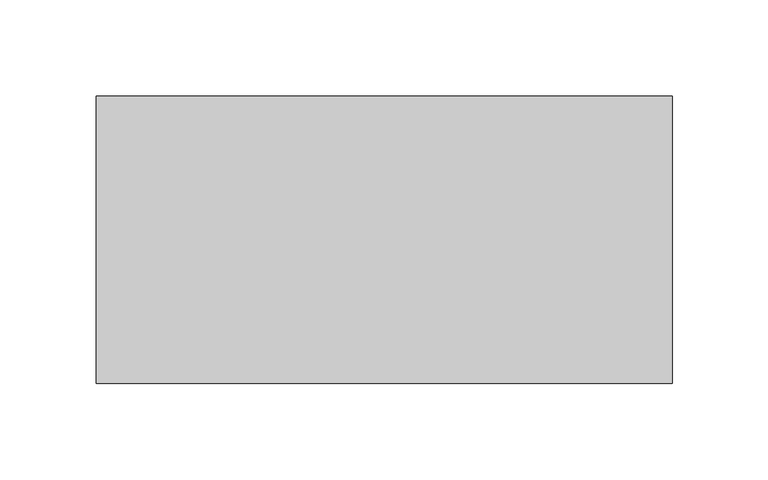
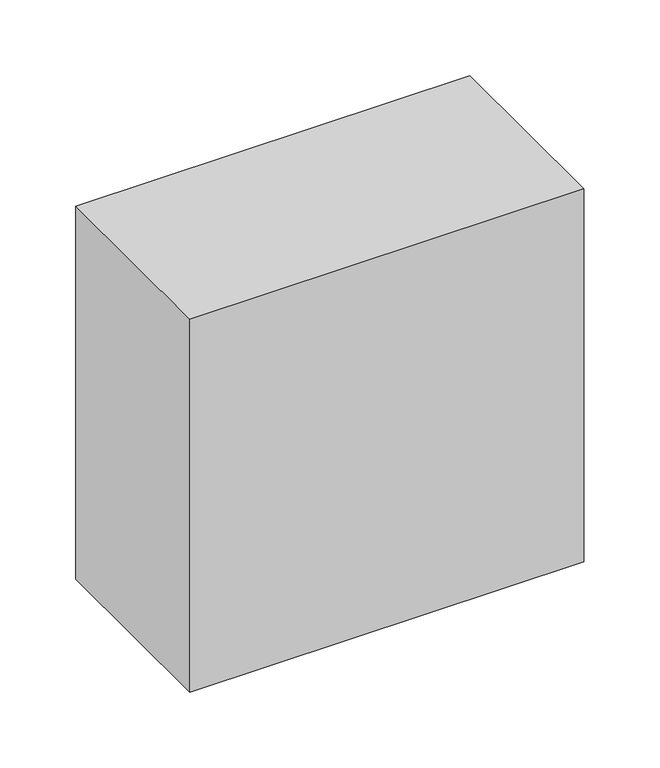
"""IFC4 building model written with IfcOpenShell, lengths in millimetres: proxy geometry, ▲EE_УЭР_компенсатор : 0300_мм."""

from ifc_helpers import new_model, si_unit, origin, origin_with_axes, place, context, project, spatial, polyline, outline, extrude, source, transform, mapped, element, save


def electrical_equipment_e233f642(model_context):
    return source(origin(), model_context, "Body", "SweptSolid", [
        extrude(outline(polyline([(300.0, -150.0), (0.0, -150.0), (0.0, 0.0), (300.0, 0.0), (300.0, -150.0)])), origin_with_axes(), (0.0, 0.0, 1.0), 300.0),
    ])


if __name__ == "__main__":
    model = new_model("IFC4")
    model_context = context("Model", 3, world=origin())
    ifc_project = project(units=[si_unit("LENGTHUNIT", "METRE", prefix="MILLI")], contexts=[model_context])
    site = spatial("IfcSite", under=ifc_project)
    building = spatial("IfcBuilding", under=site)
    placement = place(None, origin())
    electrical_equipment_shape = electrical_equipment_e233f642(model_context)
    element("IfcBuildingElementProxy", 1, Name="▲EE_УЭР_компенсатор : 0300_мм", ObjectType="▲EE_УЭР_компенсатор : 0300_мм", at=placement, inside=building, context=model_context, shape_type="MappedRepresentation", body=[
        mapped(electrical_equipment_shape, transform((0.0, 0.0, 0.0), x_axis=(1.0, 0.0, 0.0), y_axis=(0.0, 1.0, 0.0), z_axis=(0.0, 0.0, 1.0))),
    ])
    save(model, "model.ifc")
